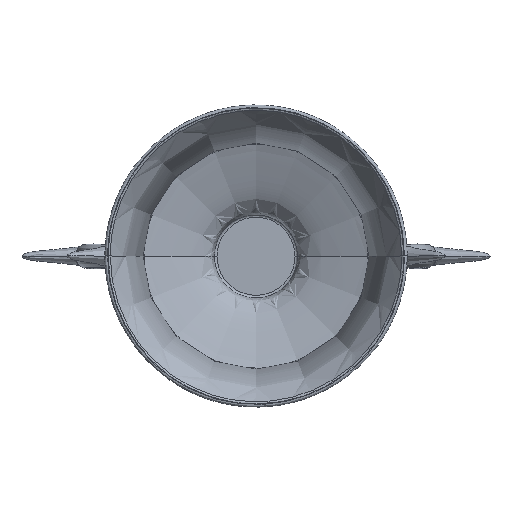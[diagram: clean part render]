
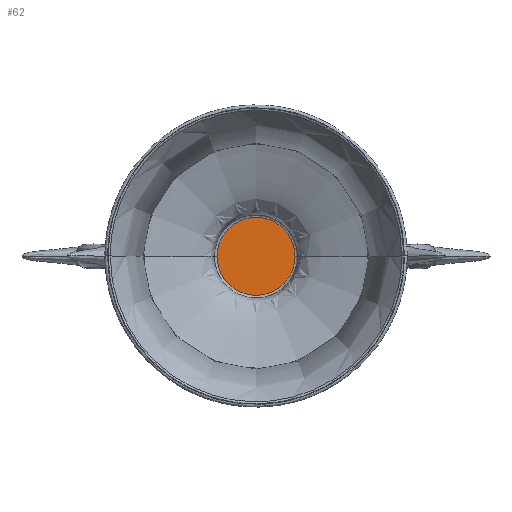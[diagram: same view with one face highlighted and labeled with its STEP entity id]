
A CAD part, top view. The second image highlights one B-rep face of the part: STEP entity #62.
In plain terms, the highlighted planar face has unit normal (0, 0, 1).
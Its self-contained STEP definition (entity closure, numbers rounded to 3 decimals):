
#62=ADVANCED_FACE('',(#140),#1120,.T.);
#140=FACE_OUTER_BOUND('',#218,.T.);
#218=EDGE_LOOP('',(#460,#461));
#460=ORIENTED_EDGE('',*,*,#766,.F.);
#461=ORIENTED_EDGE('',*,*,#710,.F.);
#710=EDGE_CURVE('',#1032,#1045,#813,.T.);
#766=EDGE_CURVE('',#1045,#1032,#835,.T.);
#813=(
BOUNDED_CURVE()
B_SPLINE_CURVE(2,(#9720,#9721,#9722,#9723,#9724),.UNSPECIFIED.,.F.,.F.)
B_SPLINE_CURVE_WITH_KNOTS((3,2,3),(0.,45.604,91.208),
 .UNSPECIFIED.)
CURVE()
GEOMETRIC_REPRESENTATION_ITEM()
RATIONAL_B_SPLINE_CURVE((1.,0.707,1.,0.707,1.))
REPRESENTATION_ITEM('')
);
#835=(
BOUNDED_CURVE()
B_SPLINE_CURVE(2,(#10158,#10159,#10160,#10161,#10162),.UNSPECIFIED.,.F.,
 .F.)
B_SPLINE_CURVE_WITH_KNOTS((3,2,3),(91.208,136.811,182.415),
 .UNSPECIFIED.)
CURVE()
GEOMETRIC_REPRESENTATION_ITEM()
RATIONAL_B_SPLINE_CURVE((1.,0.707,1.,0.707,1.))
REPRESENTATION_ITEM('')
);
#1032=VERTEX_POINT('',#8373);
#1045=VERTEX_POINT('',#8386);
#1120=PLANE('',#1144);
#1144=AXIS2_PLACEMENT_3D('',#5559,#1154,$);
#1154=DIRECTION('',(0.,0.,1.));
#5559=CARTESIAN_POINT('',(35.453,-30.702,0.401));
#8373=CARTESIAN_POINT('',(-29.027,4.746,0.401));
#8386=CARTESIAN_POINT('',(29.037,4.746,0.401));
#9720=CARTESIAN_POINT('',(-29.027,4.746,0.401));
#9721=CARTESIAN_POINT('',(-29.027,33.778,0.401));
#9722=CARTESIAN_POINT('',(0.005,33.778,0.401));
#9723=CARTESIAN_POINT('',(29.037,33.778,0.401));
#9724=CARTESIAN_POINT('',(29.037,4.746,0.401));
#10158=CARTESIAN_POINT('',(29.037,4.746,0.401));
#10159=CARTESIAN_POINT('',(29.037,-24.286,0.401));
#10160=CARTESIAN_POINT('',(0.005,-24.286,0.401));
#10161=CARTESIAN_POINT('',(-29.027,-24.286,0.401));
#10162=CARTESIAN_POINT('',(-29.027,4.746,0.401));
